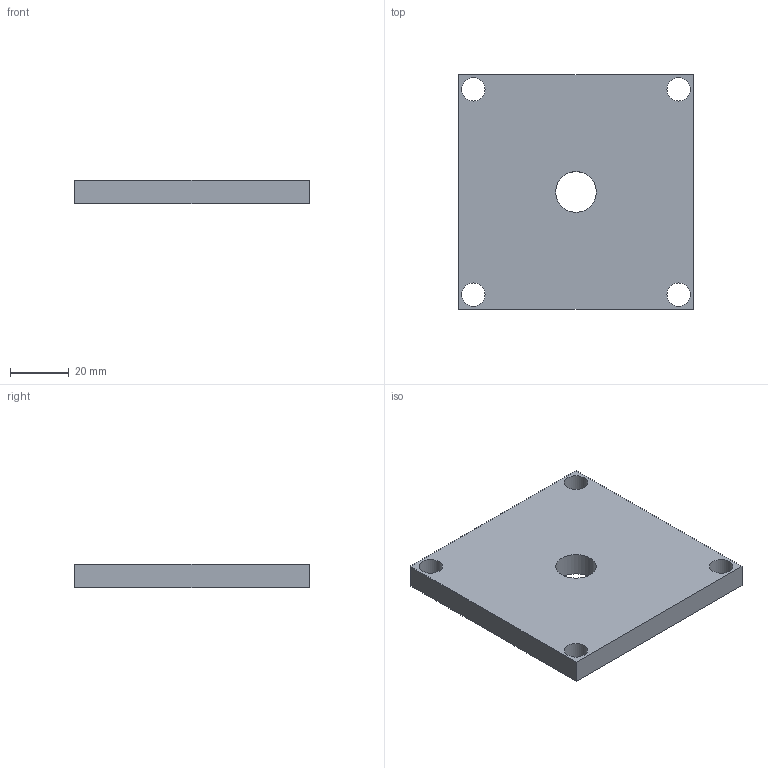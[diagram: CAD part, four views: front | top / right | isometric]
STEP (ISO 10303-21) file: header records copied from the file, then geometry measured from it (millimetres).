
FILE_DESCRIPTION((''),'2;1');
FILE_NAME('C:\Vault Klient\Carryline std\100-1170.stp','2009-12-10T08:48:00',('Mathias'),(''),'Autodesk Inventor 2010','Autodesk Inventor 2010','');
FILE_SCHEMA(('CONFIG_CONTROL_DESIGN'));
Length unit declared in the file: millimetre
Products named in the file (1): 100-1170
Bounding box: 80 x 80 x 8 mm (x, y, z)
Volume: 48389.5 mm3; surface area: 15808.9 mm2
Topology: 1 solids, 1 shells, 11 faces, 32 edges, 23 vertices
Faces by surface type: plane 6, bspline 5
Entity records: 417 total; most frequent: CARTESIAN_POINT 137, DIRECTION 46, ORIENTED_EDGE 44, EDGE_LOOP 26, EDGE_CURVE 22, VERTEX_POINT 18, AXIS2_PLACEMENT_3D 17, FACE_BOUND 15
